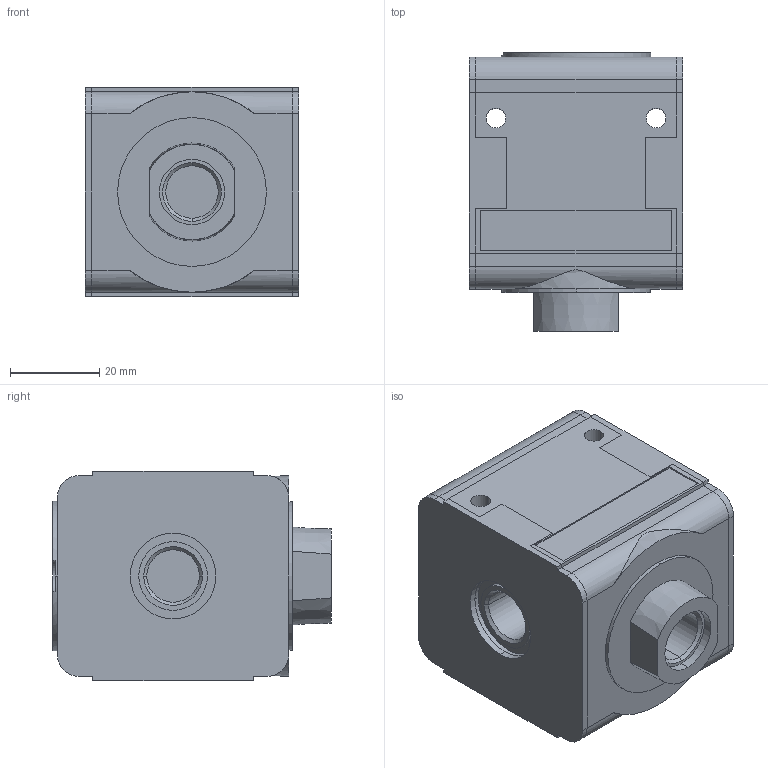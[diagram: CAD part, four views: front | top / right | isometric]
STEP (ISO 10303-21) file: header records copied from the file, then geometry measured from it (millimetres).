
FILE_DESCRIPTION((''),'2;1');
FILE_NAME('0821300264_ASM','2019-04-18T',('PDH2HC'),(''),'CREO PARAMETRIC BY PTC INC, 2016260','CREO PARAMETRIC BY PTC INC, 2016260','');
FILE_SCHEMA(('CONFIG_CONTROL_DESIGN'));
Length unit declared in the file: millimetre
Products named in the file (3): 0821300264-A; 0821300264-B; 0821300264_ASM
Assembly tree (3 placements, depth 2):
  0821300264_ASM
    0821300264-A
    0821300264-B  x2
Bounding box: 48 x 62.5 x 47 mm (x, y, z)
Volume: 113489.4 mm3; surface area: 27233.9 mm2
Topology: 3 solids, 3 shells, 159 faces, 408 edges, 270 vertices
Faces by surface type: plane 108, cylinder 43, cone 8
Entity records: 4131 total; most frequent: CARTESIAN_POINT 787, DIRECTION 682, ORIENTED_EDGE 660, EDGE_CURVE 330, VECTOR 240, LINE 240, AXIS2_PLACEMENT_3D 221, VERTEX_POINT 218
